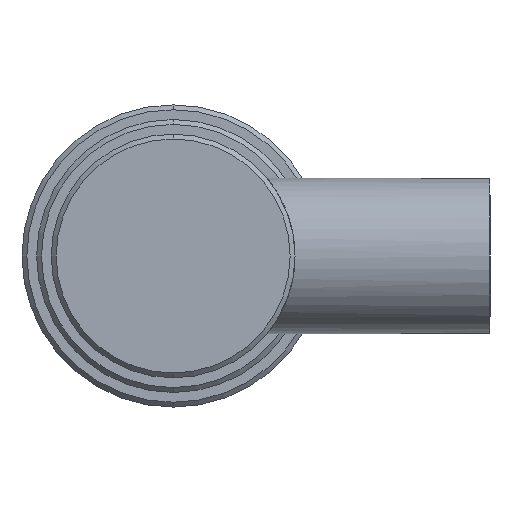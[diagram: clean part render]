
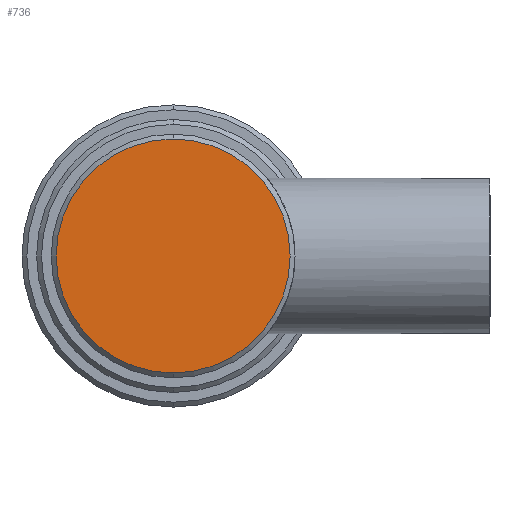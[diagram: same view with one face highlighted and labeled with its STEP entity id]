
A CAD part, left-side view. The second image highlights one B-rep face of the part: STEP entity #736.
In plain terms, the highlighted planar face has unit normal (-1, 0, 0).
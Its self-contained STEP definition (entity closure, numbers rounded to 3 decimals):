
#6 = CARTESIAN_POINT ( 'NONE',  ( 0., 0., 0. ) ) ;
#66 = VERTEX_POINT ( 'NONE', #1142 ) ;
#89 = VERTEX_POINT ( 'NONE', #374 ) ;
#105 = DIRECTION ( 'NONE',  ( 0., 0., 1. ) ) ;
#116 = EDGE_LOOP ( 'NONE', ( #1095, #591 ) ) ;
#212 = CARTESIAN_POINT ( 'NONE',  ( 0., 0., 0. ) ) ;
#247 = AXIS2_PLACEMENT_3D ( 'NONE', #6, #663, #105 ) ;
#314 = DIRECTION ( 'NONE',  ( 0., 0., 1. ) ) ;
#374 = CARTESIAN_POINT ( 'NONE',  ( 0., 0., -12. ) ) ;
#512 = DIRECTION ( 'NONE',  ( 1., 0., 0. ) ) ;
#531 = CIRCLE ( 'NONE', #247, 12. ) ;
#539 = CIRCLE ( 'NONE', #558, 12. ) ;
#545 = EDGE_CURVE ( 'NONE', #89, #66, #539, .T. ) ;
#558 = AXIS2_PLACEMENT_3D ( 'NONE', #212, #876, #314 ) ;
#591 = ORIENTED_EDGE ( 'NONE', *, *, #902, .T. ) ;
#663 = DIRECTION ( 'NONE',  ( -1., 0., 0. ) ) ;
#696 = CARTESIAN_POINT ( 'NONE',  ( 0., 0., 0. ) ) ;
#736 = ADVANCED_FACE ( 'NONE', ( #927 ), #890, .F. ) ;
#821 = AXIS2_PLACEMENT_3D ( 'NONE', #696, #512, #1174 ) ;
#876 = DIRECTION ( 'NONE',  ( -1., 0., 0. ) ) ;
#890 = PLANE ( 'NONE',  #821 ) ;
#902 = EDGE_CURVE ( 'NONE', #66, #89, #531, .T. ) ;
#927 = FACE_OUTER_BOUND ( 'NONE', #116, .T. ) ;
#1095 = ORIENTED_EDGE ( 'NONE', *, *, #545, .T. ) ;
#1142 = CARTESIAN_POINT ( 'NONE',  ( 0., 0., 12. ) ) ;
#1174 = DIRECTION ( 'NONE',  ( 0., 0., -1. ) ) ;
